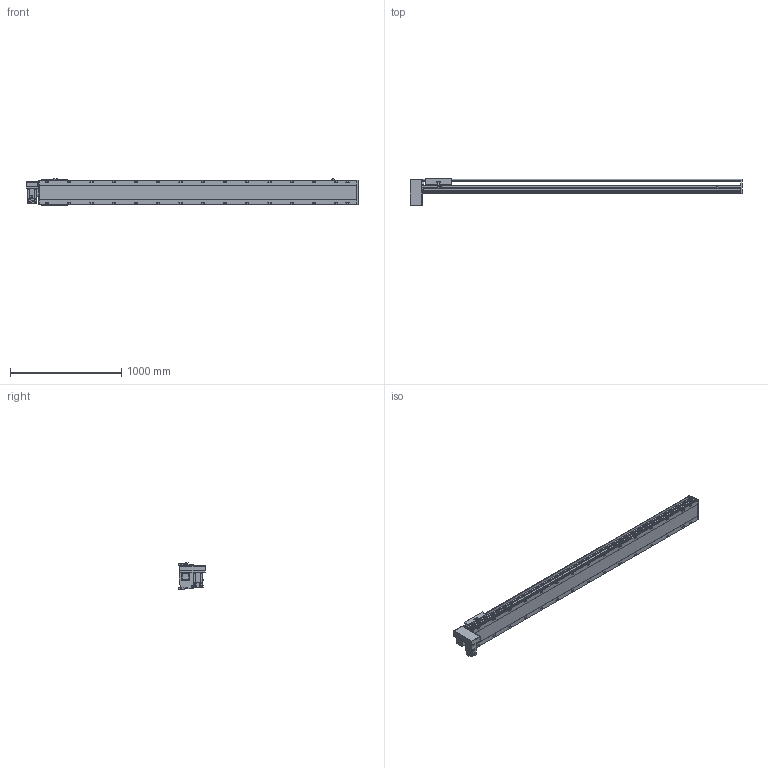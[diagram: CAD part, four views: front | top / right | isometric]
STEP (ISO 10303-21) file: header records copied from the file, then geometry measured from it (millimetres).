
FILE_DESCRIPTION(/* description */ ('STEP AP214'),/* implementation_level */ '2;1');
FILE_NAME(/* name */ 'PBS220-P40-S2500-RD-T75-C1-N(0)',/* time_stamp */ '2022-06-13T02:46:38+02:00',/* author */ ('License CC BY-ND 4.0'),/* organization */ ('CADENAS'),/* preprocessor_version */ 'ST-DEVELOPER v18.102',/* originating_system */ 'PARTsolutions',/* authorisation */ ' ');
FILE_SCHEMA (('AUTOMOTIVE_DESIGN {1 0 10303 214 3 1 1}'));
Length unit declared in the file: millimetre
Products named in the file (7): PBS220-P40-S2500-RD-T75-C1-N(0); PBS220_sensor; PBS220_plant; PBS220_sliser; T75-p1; PBS220T-RD_motors; PBS220-S2500()_body
Assembly tree (8 placements, depth 2):
  PBS220-P40-S2500-RD-T75-C1-N(0)
    PBS220_sensor  x3
    PBS220_plant
    PBS220_sliser
    T75-p1
    PBS220T-RD_motors
    PBS220-S2500()_body
Bounding box: 2984 x 239 x 238.5 mm (x, y, z)
Volume: 41655966.4 mm3; surface area: 3820200.5 mm2
Topology: 8 solids, 8 shells, 998 faces, 2592 edges, 1684 vertices
Faces by surface type: plane 626, cylinder 318, cone 54
Full cylindrical faces by diameter (mm): 2.013 x4, 4.5 x14, 4.917 x4, 6 x7, 6.647 x8, 8 x10, 8.376 x30, 8.5 x30, 10 x6, 14 x30, 38 x2, 40 x1, 70 x1
Entity records: 27813 total; most frequent: CARTESIAN_POINT 4954, DIRECTION 4833, ORIENTED_EDGE 4358, EDGE_CURVE 2179, AXIS2_PLACEMENT_3D 1737, VERTEX_POINT 1528, LINE 1359, VECTOR 1359
